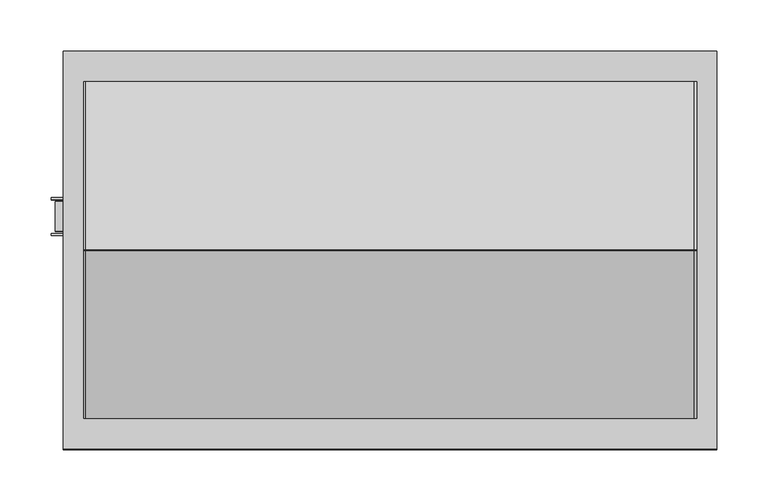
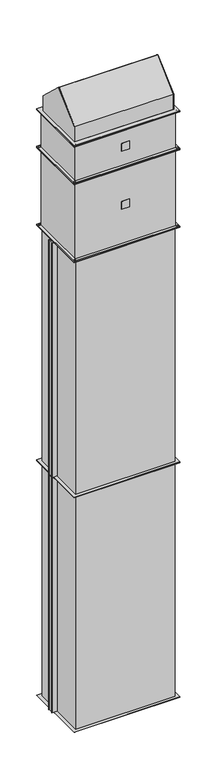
"""IFC4 building model written with IfcOpenShell, lengths in millimetres: proxy geometry, KORF_Завеса_БезНагрева_PWZ_C : PWZ-C 60-35 H."""

from ifc_helpers import new_model, si_unit, point, frame, frame_2d, origin, origin_with_axes, place, context, project, spatial, polyline, circle_curve, trimmed, segment, composite_curve, outline, extrude, source, transform, mapped, element, save


def mechanical_equipment_cd2b06a3(model_context):
    return source(origin(), model_context, "Body", "SweptSolid", [
        extrude(outline(polyline([(25.0, -180.0), (-25.0, -180.0), (-25.0, -178.0), (25.0, -178.0), (25.0, -180.0)])), frame((0.0, 0.0, 3594.0), z_axis=(0.0, 0.0, 1.0), x_axis=(1.0, 0.0, 0.0)), (0.0, 0.0, 1.0), 50.0),
        extrude(outline(polyline([(-320.0, -195.0), (-320.0, 195.0), (320.0, 195.0), (320.0, -195.0), (-320.0, -195.0)]), holes=[polyline([(-300.0, -175.0), (300.0, -175.0), (300.0, 175.0), (-300.0, 175.0), (-300.0, -175.0)]), composite_curve([segment(trimmed(circle_curve(frame_2d((310.0, -185.0)), 4.5), [point((314.5, -185.0))], [point((305.5, -185.0))], True, "CARTESIAN"), True, "CONTINUOUS"), segment(trimmed(circle_curve(frame_2d((310.0, -185.0)), 4.5), [point((305.5, -185.0))], [point((314.5, -185.0))], True, "CARTESIAN"), True, "CONTINUOUS")], self_intersect=False), composite_curve([segment(trimmed(circle_curve(frame_2d((-310.0, -185.0)), 4.5), [point((-305.5, -185.0))], [point((-314.5, -185.0))], True, "CARTESIAN"), True, "CONTINUOUS"), segment(trimmed(circle_curve(frame_2d((-310.0, -185.0)), 4.5), [point((-314.5, -185.0))], [point((-305.5, -185.0))], True, "CARTESIAN"), True, "CONTINUOUS")], self_intersect=False), composite_curve([segment(trimmed(circle_curve(frame_2d((-310.0, 185.0)), 4.5), [point((-305.5, 185.0))], [point((-314.5, 185.0))], True, "CARTESIAN"), True, "CONTINUOUS"), segment(trimmed(circle_curve(frame_2d((-310.0, 185.0)), 4.5), [point((-314.5, 185.0))], [point((-305.5, 185.0))], True, "CARTESIAN"), True, "CONTINUOUS")], self_intersect=False), composite_curve([segment(trimmed(circle_curve(frame_2d((310.0, 185.0)), 4.5), [point((314.5, 185.0))], [point((305.5, 185.0))], True, "CARTESIAN"), True, "CONTINUOUS"), segment(trimmed(circle_curve(frame_2d((310.0, 185.0)), 4.5), [point((305.5, 185.0))], [point((314.5, 185.0))], True, "CARTESIAN"), True, "CONTINUOUS")], self_intersect=False)]), frame((0.0, 0.0, 3498.0), z_axis=(0.0, 0.0, 1.0), x_axis=(1.0, 0.0, 0.0)), (0.0, 0.0, 1.0), 5.0),
        extrude(outline(polyline([(-320.0, -195.0), (-320.0, 195.0), (320.0, 195.0), (320.0, -195.0), (-320.0, -195.0)]), holes=[polyline([(-300.0, -175.0), (300.0, -175.0), (300.0, 175.0), (-300.0, 175.0), (-300.0, -175.0)]), composite_curve([segment(trimmed(circle_curve(frame_2d((310.0, -185.0)), 4.5), [point((314.5, -185.0))], [point((305.5, -185.0))], True, "CARTESIAN"), True, "CONTINUOUS"), segment(trimmed(circle_curve(frame_2d((310.0, -185.0)), 4.5), [point((305.5, -185.0))], [point((314.5, -185.0))], True, "CARTESIAN"), True, "CONTINUOUS")], self_intersect=False), composite_curve([segment(trimmed(circle_curve(frame_2d((-310.0, -185.0)), 4.5), [point((-305.5, -185.0))], [point((-314.5, -185.0))], True, "CARTESIAN"), True, "CONTINUOUS"), segment(trimmed(circle_curve(frame_2d((-310.0, -185.0)), 4.5), [point((-314.5, -185.0))], [point((-305.5, -185.0))], True, "CARTESIAN"), True, "CONTINUOUS")], self_intersect=False), composite_curve([segment(trimmed(circle_curve(frame_2d((-310.0, 185.0)), 4.5), [point((-305.5, 185.0))], [point((-314.5, 185.0))], True, "CARTESIAN"), True, "CONTINUOUS"), segment(trimmed(circle_curve(frame_2d((-310.0, 185.0)), 4.5), [point((-314.5, 185.0))], [point((-305.5, 185.0))], True, "CARTESIAN"), True, "CONTINUOUS")], self_intersect=False), composite_curve([segment(trimmed(circle_curve(frame_2d((310.0, 185.0)), 4.5), [point((314.5, 185.0))], [point((305.5, 185.0))], True, "CARTESIAN"), True, "CONTINUOUS"), segment(trimmed(circle_curve(frame_2d((310.0, 185.0)), 4.5), [point((305.5, 185.0))], [point((314.5, 185.0))], True, "CARTESIAN"), True, "CONTINUOUS")], self_intersect=False)]), frame((0.0, 0.0, 3735.0), z_axis=(0.0, 0.0, 1.0), x_axis=(1.0, 0.0, 0.0)), (0.0, 0.0, 1.0), 5.0),
        extrude(outline(polyline([(-303.0, -178.0), (-303.0, 178.0), (303.0, 178.0), (303.0, -178.0), (-303.0, -178.0)])), frame((0.0, 0.0, 3503.0), z_axis=(0.0, 0.0, 1.0), x_axis=(1.0, 0.0, 0.0)), (0.0, 0.0, 1.0), 232.0),
        extrude(outline(polyline([(25.0, -180.0), (-25.0, -180.0), (-25.0, -178.0), (25.0, -178.0), (25.0, -180.0)])), frame((0.0, 0.0, 3224.0), z_axis=(0.0, 0.0, 1.0), x_axis=(1.0, 0.0, 0.0)), (0.0, 0.0, 1.0), 50.0),
        extrude(outline(polyline([(320.0, -195.0), (-320.0, -195.0), (-320.0, 195.0), (320.0, 195.0), (320.0, -195.0)]), holes=[polyline([(300.0, -175.0), (300.0, 175.0), (-300.0, 175.0), (-300.0, -175.0), (300.0, -175.0)]), composite_curve([segment(trimmed(circle_curve(frame_2d((-310.0, -185.0)), 4.5), [point((-305.5, -185.0))], [point((-314.5, -185.0))], True, "CARTESIAN"), True, "CONTINUOUS"), segment(trimmed(circle_curve(frame_2d((-310.0, -185.0)), 4.5), [point((-314.5, -185.0))], [point((-305.5, -185.0))], True, "CARTESIAN"), True, "CONTINUOUS")], self_intersect=False), composite_curve([segment(trimmed(circle_curve(frame_2d((310.0, -185.0)), 4.5), [point((314.5, -185.0))], [point((305.5, -185.0))], True, "CARTESIAN"), True, "CONTINUOUS"), segment(trimmed(circle_curve(frame_2d((310.0, -185.0)), 4.5), [point((305.5, -185.0))], [point((314.5, -185.0))], True, "CARTESIAN"), True, "CONTINUOUS")], self_intersect=False), composite_curve([segment(trimmed(circle_curve(frame_2d((310.0, 185.0)), 4.5), [point((314.5, 185.0))], [point((305.5, 185.0))], True, "CARTESIAN"), True, "CONTINUOUS"), segment(trimmed(circle_curve(frame_2d((310.0, 185.0)), 4.5), [point((305.5, 185.0))], [point((314.5, 185.0))], True, "CARTESIAN"), True, "CONTINUOUS")], self_intersect=False), composite_curve([segment(trimmed(circle_curve(frame_2d((-310.0, 185.0)), 4.5), [point((-305.5, 185.0))], [point((-314.5, 185.0))], True, "CARTESIAN"), True, "CONTINUOUS"), segment(trimmed(circle_curve(frame_2d((-310.0, 185.0)), 4.5), [point((-314.5, 185.0))], [point((-305.5, 185.0))], True, "CARTESIAN"), True, "CONTINUOUS")], self_intersect=False)]), frame((0.0, 0.0, 3493.0), z_axis=(0.0, 0.0, 1.0), x_axis=(1.0, 0.0, 0.0)), (0.0, 0.0, 1.0), 5.0),
        extrude(outline(polyline([(320.0, -195.0), (-320.0, -195.0), (-320.0, 195.0), (320.0, 195.0), (320.0, -195.0)]), holes=[polyline([(300.0, -175.0), (300.0, 175.0), (-300.0, 175.0), (-300.0, -175.0), (300.0, -175.0)]), composite_curve([segment(trimmed(circle_curve(frame_2d((-310.0, -185.0)), 4.5), [point((-305.5, -185.0))], [point((-314.5, -185.0))], True, "CARTESIAN"), True, "CONTINUOUS"), segment(trimmed(circle_curve(frame_2d((-310.0, -185.0)), 4.5), [point((-314.5, -185.0))], [point((-305.5, -185.0))], True, "CARTESIAN"), True, "CONTINUOUS")], self_intersect=False), composite_curve([segment(trimmed(circle_curve(frame_2d((310.0, -185.0)), 4.5), [point((314.5, -185.0))], [point((305.5, -185.0))], True, "CARTESIAN"), True, "CONTINUOUS"), segment(trimmed(circle_curve(frame_2d((310.0, -185.0)), 4.5), [point((305.5, -185.0))], [point((314.5, -185.0))], True, "CARTESIAN"), True, "CONTINUOUS")], self_intersect=False), composite_curve([segment(trimmed(circle_curve(frame_2d((310.0, 185.0)), 4.5), [point((314.5, 185.0))], [point((305.5, 185.0))], True, "CARTESIAN"), True, "CONTINUOUS"), segment(trimmed(circle_curve(frame_2d((310.0, 185.0)), 4.5), [point((305.5, 185.0))], [point((314.5, 185.0))], True, "CARTESIAN"), True, "CONTINUOUS")], self_intersect=False), composite_curve([segment(trimmed(circle_curve(frame_2d((-310.0, 185.0)), 4.5), [point((-305.5, 185.0))], [point((-314.5, 185.0))], True, "CARTESIAN"), True, "CONTINUOUS"), segment(trimmed(circle_curve(frame_2d((-310.0, 185.0)), 4.5), [point((-314.5, 185.0))], [point((-305.5, 185.0))], True, "CARTESIAN"), True, "CONTINUOUS")], self_intersect=False)]), frame((0.0, 0.0, 3000.0), z_axis=(0.0, 0.0, 1.0), x_axis=(1.0, 0.0, 0.0)), (0.0, 0.0, 1.0), 5.0),
        extrude(outline(polyline([(303.0, -178.0), (-303.0, -178.0), (-303.0, 178.0), (303.0, 178.0), (303.0, -178.0)])), frame((0.0, 0.0, 3005.0), z_axis=(0.0, 0.0, 1.0), x_axis=(1.0, 0.0, 0.0)), (0.0, 0.0, 1.0), 488.0),
        extrude(outline(polyline([(300.0, 175.0), (300.0, -175.0), (-300.0, -175.0), (-300.0, 175.0), (300.0, 175.0)])), frame((0.0, 0.0, 1500.0), z_axis=(0.0, 0.0, 1.0), x_axis=(1.0, 0.0, 0.0)), (0.0, 0.0, 1.0), 1500.0),
        extrude(outline(polyline([(-328.0, 47.5), (-300.0, 47.5), (-300.0, 18.5), (-328.0, 18.5), (-328.0, 47.5)])), frame((0.0, 0.0, 1502.0), z_axis=(0.0, 0.0, 1.0), x_axis=(1.0, 0.0, 0.0)), (0.0, 0.0, 1.0), 1496.0),
        extrude(outline(polyline([(-332.0, 51.5), (-300.0, 51.5), (-300.0, 49.5), (-332.0, 49.5), (-332.0, 51.5)])), frame((0.0, 0.0, 1502.0), z_axis=(0.0, 0.0, 1.0), x_axis=(1.0, 0.0, 0.0)), (0.0, 0.0, 1.0), 1496.0),
        extrude(outline(polyline([(-332.0, 14.5), (-332.0, 16.5), (-300.0, 16.5), (-300.0, 14.5), (-332.0, 14.5)])), frame((0.0, 0.0, 1502.0), z_axis=(0.0, 0.0, 1.0), x_axis=(1.0, 0.0, 0.0)), (0.0, 0.0, 1.0), 1496.0),
        extrude(outline(polyline([(320.0, 195.0), (320.0, -195.0), (-320.0, -195.0), (-320.0, 195.0), (320.0, 195.0)]), holes=[polyline([(300.0, 175.0), (-300.0, 175.0), (-300.0, -175.0), (300.0, -175.0), (300.0, 175.0)])]), frame((0.0, 0.0, 2998.0), z_axis=(0.0, 0.0, 1.0), x_axis=(1.0, 0.0, 0.0)), (0.0, 0.0, 1.0), 2.0),
        extrude(outline(polyline([(320.0, 195.0), (320.0, -195.0), (-320.0, -195.0), (-320.0, 195.0), (320.0, 195.0)]), holes=[polyline([(300.0, 175.0), (-300.0, 175.0), (-300.0, -175.0), (300.0, -175.0), (300.0, 175.0)])]), frame((0.0, 0.0, 1500.0), z_axis=(0.0, 0.0, 1.0), x_axis=(1.0, 0.0, 0.0)), (0.0, 0.0, 1.0), 2.0),
        extrude(outline(polyline([(300.0, 175.0), (300.0, -175.0), (-300.0, -175.0), (-300.0, 175.0), (300.0, 175.0)])), origin_with_axes(), (0.0, 0.0, 1.0), 1500.0),
        extrude(outline(polyline([(-328.0, 47.5), (-300.0, 47.5), (-300.0, 18.5), (-328.0, 18.5), (-328.0, 47.5)])), frame((0.0, 0.0, 2.0), z_axis=(0.0, 0.0, 1.0), x_axis=(1.0, 0.0, 0.0)), (0.0, 0.0, 1.0), 1496.0),
        extrude(outline(polyline([(-332.0, 51.5), (-300.0, 51.5), (-300.0, 49.5), (-332.0, 49.5), (-332.0, 51.5)])), frame((0.0, 0.0, 2.0), z_axis=(0.0, 0.0, 1.0), x_axis=(1.0, 0.0, 0.0)), (0.0, 0.0, 1.0), 1496.0),
        extrude(outline(polyline([(-332.0, 14.5), (-332.0, 16.5), (-300.0, 16.5), (-300.0, 14.5), (-332.0, 14.5)])), frame((0.0, 0.0, 2.0), z_axis=(0.0, 0.0, 1.0), x_axis=(1.0, 0.0, 0.0)), (0.0, 0.0, 1.0), 1496.0),
        extrude(outline(polyline([(320.0, 195.0), (320.0, -195.0), (-320.0, -195.0), (-320.0, 195.0), (320.0, 195.0)]), holes=[polyline([(300.0, 175.0), (-300.0, 175.0), (-300.0, -175.0), (300.0, -175.0), (300.0, 175.0)])]), frame((0.0, 0.0, 1498.0), z_axis=(0.0, 0.0, 1.0), x_axis=(1.0, 0.0, 0.0)), (0.0, 0.0, 1.0), 2.0),
        extrude(outline(polyline([(320.0, 195.0), (320.0, -195.0), (-320.0, -195.0), (-320.0, 195.0), (320.0, 195.0)]), holes=[polyline([(300.0, 175.0), (-300.0, 175.0), (-300.0, -175.0), (300.0, -175.0), (300.0, 175.0)])]), origin_with_axes(), (0.0, 0.0, 1.0), 2.0),
        extrude(outline(composite_curve([segment(polyline([(165.0, 3837.1428571), (165.0, 3742.0), (-165.0, 3742.0), (-165.0, 3837.1428571), (-0.6395979, 3989.3786763)]), True, "CONTINUOUS"), segment(trimmed(circle_curve(frame_2d((0.0, 3988.7202668)), 0.9179263), [point((-0.6395979, 3989.3786763))], [point((0.6395979, 3989.3786763))], False, "CARTESIAN"), True, "CONTINUOUS"), segment(polyline([(0.6395979, 3989.3786763), (165.0, 3837.1428571)]), True, "CONTINUOUS")], self_intersect=False)), frame((298.0, 0.0, 0.0), z_axis=(1.0, 0.0, 0.0), x_axis=(0.0, 1.0, 0.0)), (0.0, 0.0, 1.0), 2.0),
        extrude(outline(composite_curve([segment(polyline([(165.0, 3837.1428571), (165.0, 3742.0), (-165.0, 3742.0), (-165.0, 3837.1428571), (-0.6395979, 3989.3786763)]), True, "CONTINUOUS"), segment(trimmed(circle_curve(frame_2d((0.0, 3988.7202668)), 0.9179263), [point((-0.6395979, 3989.3786763))], [point((0.6395979, 3989.3786763))], False, "CARTESIAN"), True, "CONTINUOUS"), segment(polyline([(0.6395979, 3989.3786763), (165.0, 3837.1428571)]), True, "CONTINUOUS")], self_intersect=False)), frame((-298.0, 0.0, 0.0), z_axis=(1.0, 0.0, 0.0), x_axis=(0.0, 1.0, 0.0)), (0.0, 0.0, 1.0), 596.0),
        extrude(outline(composite_curve([segment(polyline([(165.0, 3837.1428571), (165.0, 3742.0), (-165.0, 3742.0), (-165.0, 3837.1428571), (-0.6395979, 3989.3786763)]), True, "CONTINUOUS"), segment(trimmed(circle_curve(frame_2d((0.0, 3988.7202668)), 0.9179263), [point((-0.6395979, 3989.3786763))], [point((0.6395979, 3989.3786763))], False, "CARTESIAN"), True, "CONTINUOUS"), segment(polyline([(0.6395979, 3989.3786763), (165.0, 3837.1428571)]), True, "CONTINUOUS")], self_intersect=False)), frame((-300.0, 0.0, 0.0), z_axis=(1.0, 0.0, 0.0), x_axis=(0.0, 1.0, 0.0)), (0.0, 0.0, 1.0), 2.0),
        extrude(outline(polyline([(320.0, 195.0), (320.0, -195.0), (-320.0, -195.0), (-320.0, 195.0), (320.0, 195.0)]), holes=[polyline([(-300.0, 165.0), (-300.0, -165.0), (300.0, -165.0), (300.0, 165.0), (-300.0, 165.0)])]), frame((0.0, 0.0, 3740.0), z_axis=(0.0, 0.0, 1.0), x_axis=(1.0, 0.0, 0.0)), (0.0, 0.0, 1.0), 2.0),
    ])


if __name__ == "__main__":
    model = new_model("IFC4")
    model_context = context("Model", 3, world=origin())
    ifc_project = project(units=[si_unit("LENGTHUNIT", "METRE", prefix="MILLI")], contexts=[model_context])
    site = spatial("IfcSite", under=ifc_project)
    building = spatial("IfcBuilding", under=site)
    placement = place(None, origin())
    mechanical_equipment_shape = mechanical_equipment_cd2b06a3(model_context)
    element("IfcBuildingElementProxy", 1, Name="KORF_Завеса_БезНагрева_PWZ_C : PWZ-C 60-35 H", ObjectType="KORF_Завеса_БезНагрева_PWZ_C : PWZ-C 60-35 H", at=placement, inside=building, context=model_context, shape_type="MappedRepresentation", body=[
        mapped(mechanical_equipment_shape, transform((0.0, 0.0, 0.0), x_axis=(1.0, 0.0, 0.0), y_axis=(0.0, 1.0, 0.0), z_axis=(0.0, 0.0, 1.0))),
    ])
    save(model, "model.ifc")
